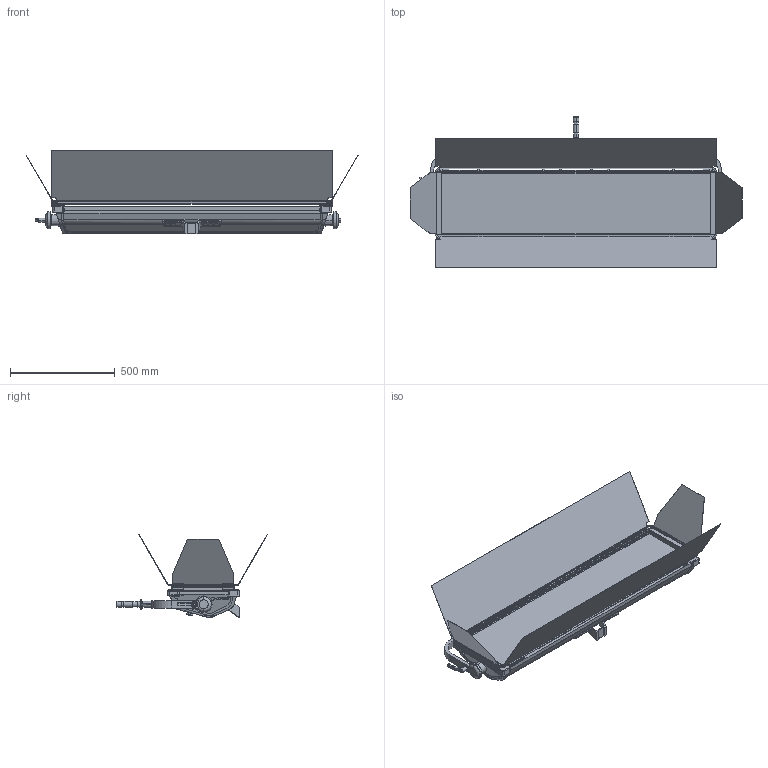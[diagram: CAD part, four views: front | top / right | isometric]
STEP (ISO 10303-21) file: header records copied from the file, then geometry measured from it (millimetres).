
FILE_DESCRIPTION (( 'STEP AP214' ), '1' );
FILE_NAME ('S120-C_MAN.STEP', '2016-08-30T14:00:18', ( '' ), ( '' ), 'SwSTEP 2.0', 'SolidWorks 2016', '' );
FILE_SCHEMA (( 'AUTOMOTIVE_DESIGN' ));
Length unit declared in the file: millimetre
Products named in the file (4): S120_Haltebuegel_reduziert; S120_Fluegeltor_reduziert; S120-C-reduziert; S120-C_MAN
Assembly tree (3 placements, depth 2):
  S120-C_MAN
    S120-C-reduziert
    S120_Fluegeltor_reduziert
    S120_Haltebuegel_reduziert
Bounding box: 1587.17 x 722.53 x 399.33 mm (x, y, z)
Volume: 40514415.2 mm3; surface area: 3644413.9 mm2
Topology: 8 solids, 8 shells, 2537 faces, 7338 edges, 4898 vertices
Faces by surface type: plane 1409, cylinder 877, bspline 172, cone 45, torus 28, sphere 6
Entity records: 118546 total; most frequent: CARTESIAN_POINT 42286, ORIENTED_EDGE 14666, DIRECTION 10235, EDGE_CURVE 7333, VERTEX_POINT 4898, LINE 4191, VECTOR 4191, AXIS2_PLACEMENT_3D 3022
